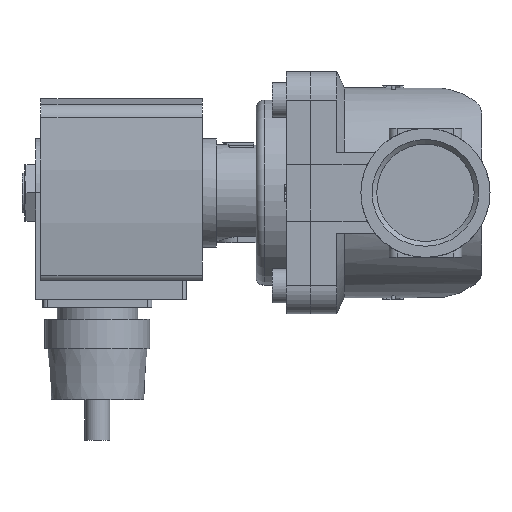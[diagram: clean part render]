
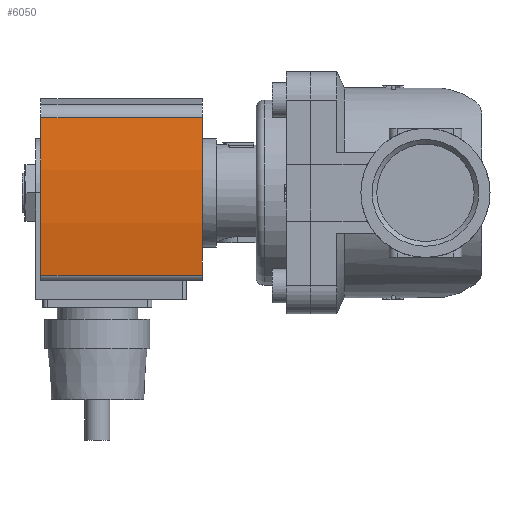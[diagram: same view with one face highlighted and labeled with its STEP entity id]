
A CAD part, left-side view. The second image highlights one B-rep face of the part: STEP entity #6050.
In plain terms, the highlighted cylindrical face has radius 130 mm (diameter 260 mm), a partial arc.
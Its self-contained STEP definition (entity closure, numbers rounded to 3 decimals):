
#240=CYLINDRICAL_SURFACE('',#6588,130.);
#632=LINE('',#9772,#1044);
#633=LINE('',#9776,#1045);
#1044=VECTOR('',#7998,1000.);
#1045=VECTOR('',#8003,1000.);
#2360=ORIENTED_EDGE('',*,*,#3204,.T.);
#2361=ORIENTED_EDGE('',*,*,#3205,.F.);
#2362=ORIENTED_EDGE('',*,*,#3193,.F.);
#2363=ORIENTED_EDGE('',*,*,#3203,.T.);
#3193=EDGE_CURVE('',#3720,#3721,#3948,.T.);
#3203=EDGE_CURVE('',#3720,#3727,#632,.T.);
#3204=EDGE_CURVE('',#3727,#3728,#3956,.T.);
#3205=EDGE_CURVE('',#3721,#3728,#633,.T.);
#3720=VERTEX_POINT('',#9752);
#3721=VERTEX_POINT('',#9754);
#3727=VERTEX_POINT('',#9771);
#3728=VERTEX_POINT('',#9775);
#3948=CIRCLE('',#6578,130.);
#3956=CIRCLE('',#6589,130.);
#4280=EDGE_LOOP('',(#2360,#2361,#2362,#2363));
#4630=FACE_BOUND('',#4280,.T.);
#6050=ADVANCED_FACE('',(#4630),#240,.T.);
#6578=AXIS2_PLACEMENT_3D('',#9753,#7976,#7977);
#6588=AXIS2_PLACEMENT_3D('',#9773,#7999,#8000);
#6589=AXIS2_PLACEMENT_3D('',#9774,#8001,#8002);
#7976=DIRECTION('',(0.,1.,0.));
#7977=DIRECTION('',(1.,0.,0.));
#7998=DIRECTION('',(0.,-1.,0.));
#7999=DIRECTION('',(0.,-1.,0.));
#8000=DIRECTION('',(0.,0.,-1.));
#8001=DIRECTION('',(0.,1.,0.));
#8002=DIRECTION('',(1.,0.,0.));
#8003=DIRECTION('',(0.,-1.,0.));
#9752=CARTESIAN_POINT('',(-20.382,14.,18.392));
#9753=CARTESIAN_POINT('',(0.,14.,-110.));
#9754=CARTESIAN_POINT('',(18.639,14.,18.657));
#9771=CARTESIAN_POINT('',(-20.382,-26.,18.392));
#9772=CARTESIAN_POINT('',(-20.382,14.,18.392));
#9773=CARTESIAN_POINT('',(0.,14.,-110.));
#9774=CARTESIAN_POINT('',(0.,-26.,-110.));
#9775=CARTESIAN_POINT('',(18.639,-26.,18.657));
#9776=CARTESIAN_POINT('',(18.639,14.,18.657));
